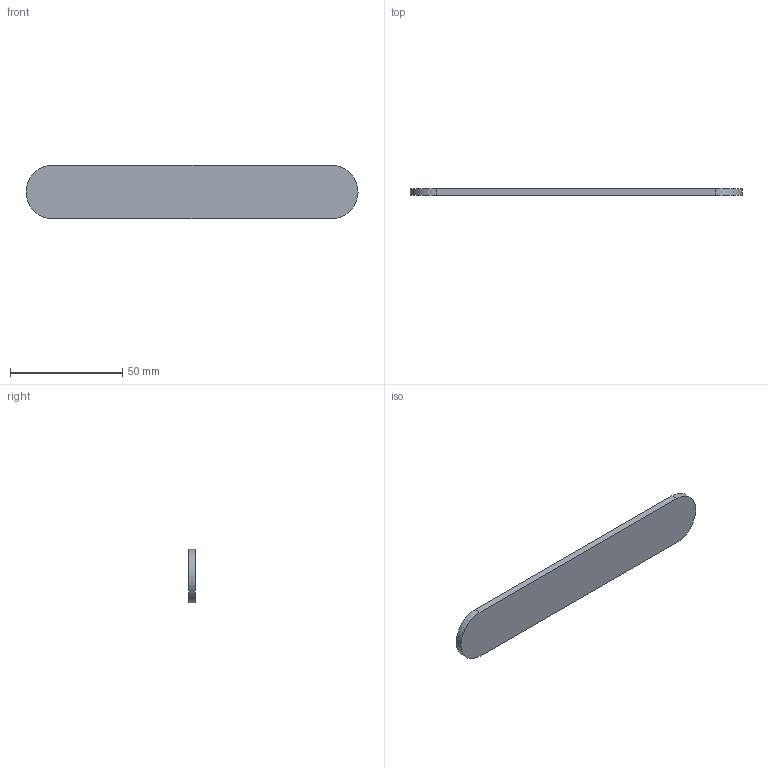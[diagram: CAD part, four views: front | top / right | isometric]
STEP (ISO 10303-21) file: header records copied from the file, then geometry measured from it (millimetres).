
FILE_DESCRIPTION(('Open CASCADE Model'),'2;1');
FILE_NAME('Open CASCADE Shape Model','2026-10-10T15:34:58',('Author'),( 'Open CASCADE'),'Open CASCADE STEP processor 7.9','Open CASCADE 7.9' ,'Unknown');
FILE_SCHEMA(('AUTOMOTIVE_DESIGN { 1 0 10303 214 1 1 1 1 }'));
Length unit declared in the file: millimetre
Products named in the file (1): Open CASCADE STEP translator 7.9 29
Bounding box: 148 x 3 x 24 mm (x, y, z)
Volume: 10285.2 mm3; surface area: 7827 mm2
Topology: 1 solids, 1 shells, 6 faces, 12 edges, 8 vertices
Faces by surface type: plane 4, cylinder 2
Entity records: 326 total; most frequent: DIRECTION 54, CARTESIAN_POINT 51, LINE 28, VECTOR 28, ORIENTED_EDGE 24, PCURVE 24, DEFINITIONAL_REPRESENTATION 24, EDGE_CURVE 12
